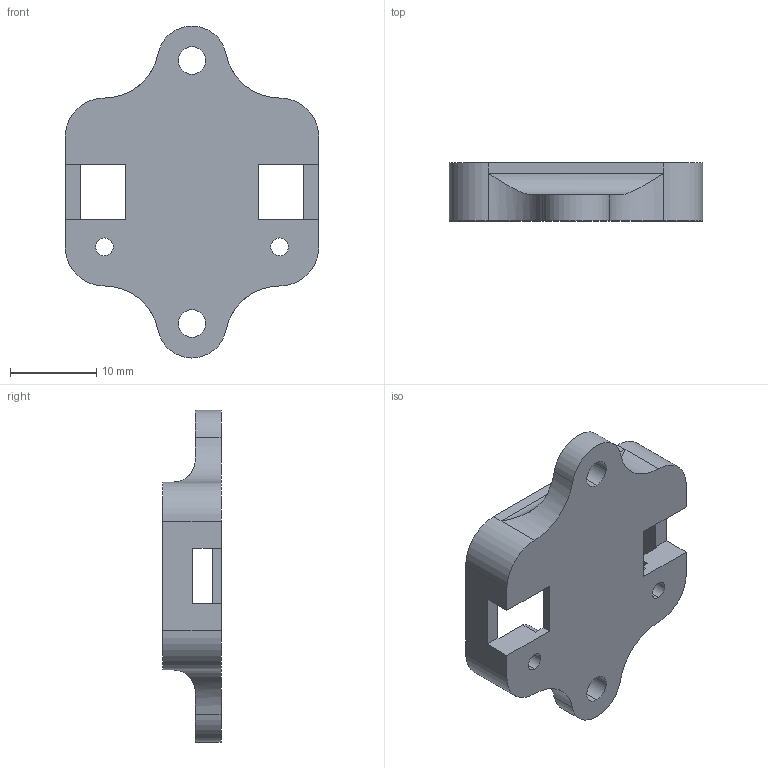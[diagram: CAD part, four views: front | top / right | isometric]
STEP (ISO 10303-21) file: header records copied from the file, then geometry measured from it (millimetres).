
FILE_DESCRIPTION (( 'STEP AP203' ), '1' );
FILE_NAME ('Adafruit_ISM330DHXC_CASE_TOP.STEP');
FILE_SCHEMA (( 'CONFIG_CONTROL_DESIGN' ));
Length unit declared in the file: millimetre
Products named in the file (1): Adafruit_ISM330DHXC_CASE_TOP
Bounding box: 29.4 x 6.74 x 38.48 mm (x, y, z)
Volume: 2047.9 mm3; surface area: 2580.8 mm2
Topology: 1 solids, 1 shells, 63 faces, 188 edges, 124 vertices
Faces by surface type: plane 32, cylinder 31
Entity records: 2278 total; most frequent: CARTESIAN_POINT 432, ORIENTED_EDGE 376, DIRECTION 371, EDGE_CURVE 188, VECTOR 125, LINE 125, VERTEX_POINT 124, AXIS2_PLACEMENT_3D 123
